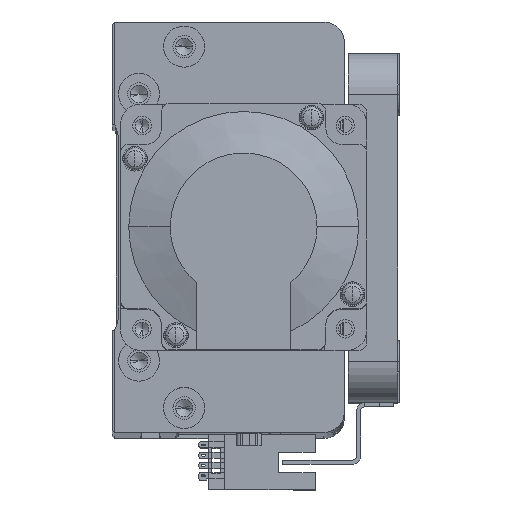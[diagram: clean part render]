
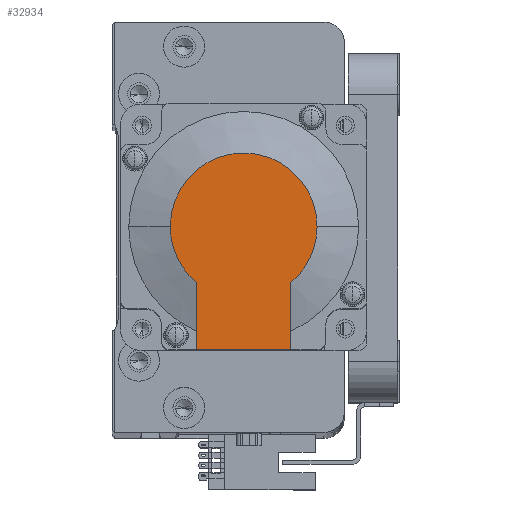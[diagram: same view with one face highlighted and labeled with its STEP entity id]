
A CAD part, top view. The second image highlights one B-rep face of the part: STEP entity #32934.
In plain terms, the highlighted planar face has unit normal (0, 0, 1) as drawn and (-1, 0, 0) by its records, which use the part's own axes.
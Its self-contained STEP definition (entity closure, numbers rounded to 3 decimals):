
#187 = CARTESIAN_POINT ( 'NONE',  ( -118.5, 0., 17.881 ) ) ;
#215 = EDGE_LOOP ( 'NONE', ( #2623, #4113, #17616, #31059, #19397, #49966 ) ) ;
#1307 = CIRCLE ( 'NONE', #30299, 17.881 ) ;
#1537 = CARTESIAN_POINT ( 'NONE',  ( -118.5, 30., 11.45 ) ) ;
#1552 = VERTEX_POINT ( 'NONE', #45111 ) ;
#2623 = ORIENTED_EDGE ( 'NONE', *, *, #26633, .T. ) ;
#3220 = CARTESIAN_POINT ( 'NONE',  ( -118.5, 13.735, -11.45 ) ) ;
#4113 = ORIENTED_EDGE ( 'NONE', *, *, #38959, .T. ) ;
#4157 = CARTESIAN_POINT ( 'NONE',  ( -118.5, 0., 0. ) ) ;
#5632 = VECTOR ( 'NONE', #52362, 1000. ) ;
#8109 = DIRECTION ( 'NONE',  ( 0., -1., 0. ) ) ;
#8519 = DIRECTION ( 'NONE',  ( 0., 0., -1. ) ) ;
#9478 = LINE ( 'NONE', #41779, #30985 ) ;
#10807 = PLANE ( 'NONE',  #53977 ) ;
#11686 = CARTESIAN_POINT ( 'NONE',  ( -118.5, 0., 0. ) ) ;
#15283 = CARTESIAN_POINT ( 'NONE',  ( -118.5, -8.941, 0. ) ) ;
#16001 = DIRECTION ( 'NONE',  ( 0., 0., -1. ) ) ;
#16186 = DIRECTION ( 'NONE',  ( 0., -1., 0. ) ) ;
#16721 = CIRCLE ( 'NONE', #43651, 17.881 ) ;
#17616 = ORIENTED_EDGE ( 'NONE', *, *, #51331, .T. ) ;
#18010 = CARTESIAN_POINT ( 'NONE',  ( -118.5, 0., 0. ) ) ;
#19359 = VECTOR ( 'NONE', #8109, 1000. ) ;
#19397 = ORIENTED_EDGE ( 'NONE', *, *, #38733, .F. ) ;
#19599 = DIRECTION ( 'NONE',  ( 0., 0., 1. ) ) ;
#19727 = CARTESIAN_POINT ( 'NONE',  ( -118.5, 0., -17.881 ) ) ;
#22249 = CARTESIAN_POINT ( 'NONE',  ( -118.5, 30., 25. ) ) ;
#22372 = DIRECTION ( 'NONE',  ( 0., 0., -1. ) ) ;
#23172 = VERTEX_POINT ( 'NONE', #3220 ) ;
#23310 = CARTESIAN_POINT ( 'NONE',  ( -118.5, 13.735, 11.45 ) ) ;
#26633 = EDGE_CURVE ( 'NONE', #1552, #23172, #30847, .T. ) ;
#28270 = VERTEX_POINT ( 'NONE', #23310 ) ;
#28374 = VERTEX_POINT ( 'NONE', #19727 ) ;
#28477 = LINE ( 'NONE', #22249, #5632 ) ;
#30299 = AXIS2_PLACEMENT_3D ( 'NONE', #4157, #34248, #8519 ) ;
#30847 = LINE ( 'NONE', #46419, #19359 ) ;
#30985 = VECTOR ( 'NONE', #16186, 1000. ) ;
#31059 = ORIENTED_EDGE ( 'NONE', *, *, #38844, .T. ) ;
#32934 = ADVANCED_FACE ( 'NONE', ( #50553 ), #10807, .T. ) ;
#34248 = DIRECTION ( 'NONE',  ( -1., 0., 0. ) ) ;
#38506 = VERTEX_POINT ( 'NONE', #1537 ) ;
#38733 = EDGE_CURVE ( 'NONE', #38506, #28270, #9478, .T. ) ;
#38844 = EDGE_CURVE ( 'NONE', #42545, #28270, #1307, .T. ) ;
#38959 = EDGE_CURVE ( 'NONE', #23172, #28374, #16721, .T. ) ;
#41730 = CIRCLE ( 'NONE', #52609, 17.881 ) ;
#41772 = DIRECTION ( 'NONE',  ( -1., 0., 0. ) ) ;
#41779 = CARTESIAN_POINT ( 'NONE',  ( -118.5, 0., 11.45 ) ) ;
#42545 = VERTEX_POINT ( 'NONE', #187 ) ;
#43651 = AXIS2_PLACEMENT_3D ( 'NONE', #18010, #48159, #22372 ) ;
#45111 = CARTESIAN_POINT ( 'NONE',  ( -118.5, 30., -11.45 ) ) ;
#45388 = DIRECTION ( 'NONE',  ( -1., 0., 0. ) ) ;
#46419 = CARTESIAN_POINT ( 'NONE',  ( -118.5, -8.941, -11.45 ) ) ;
#48159 = DIRECTION ( 'NONE',  ( -1., 0., 0. ) ) ;
#49966 = ORIENTED_EDGE ( 'NONE', *, *, #54296, .F. ) ;
#50553 = FACE_OUTER_BOUND ( 'NONE', #215, .T. ) ;
#51331 = EDGE_CURVE ( 'NONE', #28374, #42545, #41730, .T. ) ;
#52362 = DIRECTION ( 'NONE',  ( 0., 0., 1. ) ) ;
#52609 = AXIS2_PLACEMENT_3D ( 'NONE', #11686, #41772, #16001 ) ;
#53977 = AXIS2_PLACEMENT_3D ( 'NONE', #15283, #45388, #19599 ) ;
#54296 = EDGE_CURVE ( 'NONE', #1552, #38506, #28477, .T. ) ;
